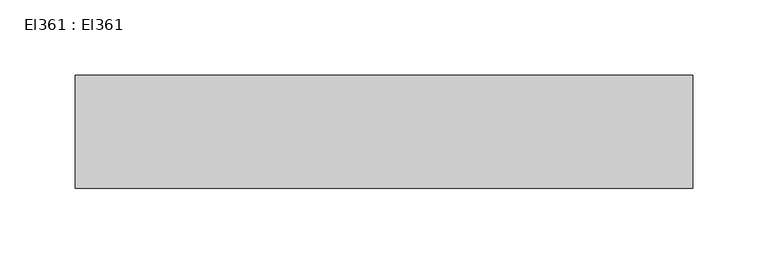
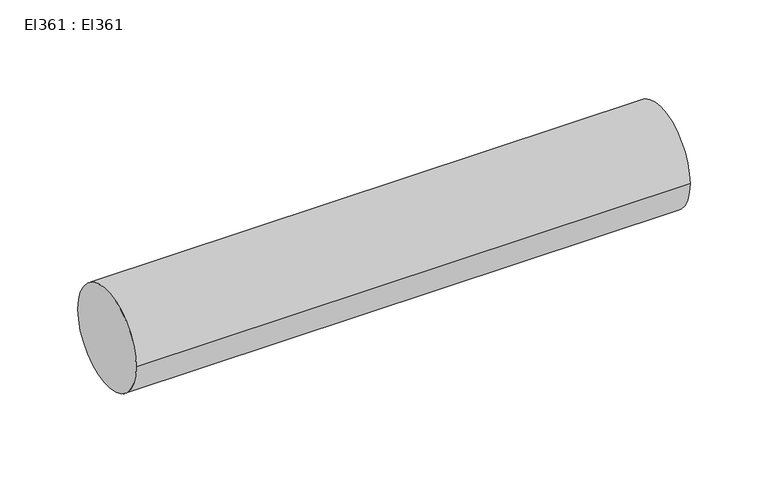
"""IFC4 building model written with IfcOpenShell, lengths in millimetres: cable carrier segment geometry, El361 : El361."""

from ifc_helpers import new_model, si_unit, point, frame, frame_2d, origin, place, context, project, spatial, circle_curve, trimmed, segment, composite_curve, outline, extrude, source, transform, mapped, element, save


def el361_el361_44a836a6(model_context):
    return source(origin(), model_context, "Body", "SweptSolid", [
        extrude(outline(composite_curve([segment(trimmed(circle_curve(frame_2d((13222.1, 1200.0)), 37.5), [point((13184.6, 1200.0))], [point((13259.6, 1200.0))], False, "CARTESIAN"), True, "CONTINUOUS"), segment(trimmed(circle_curve(frame_2d((13222.1, 1200.0)), 37.5), [point((13259.6, 1200.0))], [point((13184.6, 1200.0))], False, "CARTESIAN"), True, "CONTINUOUS")], self_intersect=False)), frame((23792.864, 0.0, 0.0), z_axis=(1.0, 0.0, 0.0), x_axis=(0.0, 1.0, 0.0)), (0.0, 0.0, 1.0), 410.072),
    ])


if __name__ == "__main__":
    model = new_model("IFC4")
    model_context = context("Model", 3, world=origin())
    ifc_project = project(units=[si_unit("LENGTHUNIT", "METRE", prefix="MILLI")], contexts=[model_context])
    site = spatial("IfcSite", under=ifc_project)
    building = spatial("IfcBuilding", under=site)
    placement = place(None, origin())
    el361_el361_shape = el361_el361_44a836a6(model_context)
    element("IfcCableCarrierSegment", 1, ObjectType="El361 : El361", at=placement, inside=building, context=model_context, shape_type="MappedRepresentation", body=[
        mapped(el361_el361_shape, transform((0.0, 0.0, 0.0), x_axis=(1.0, 0.0, 0.0), y_axis=(0.0, 1.0, 0.0), z_axis=(0.0, 0.0, 1.0))),
    ])
    save(model, "model.ifc")
